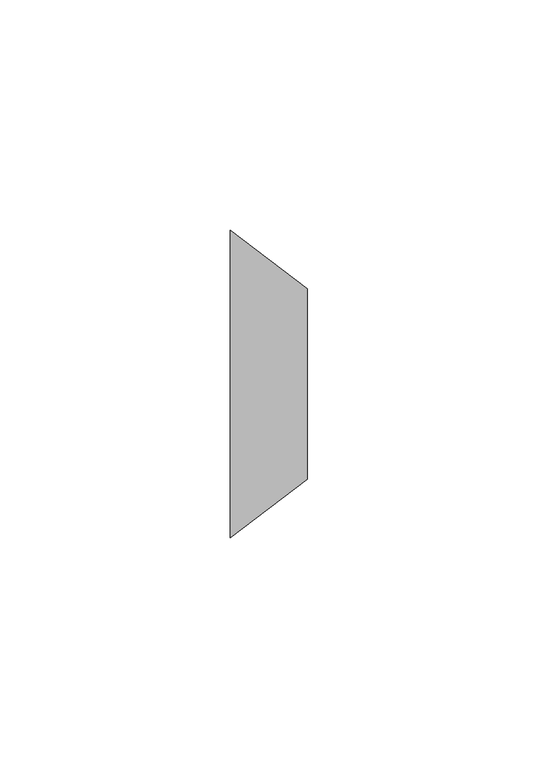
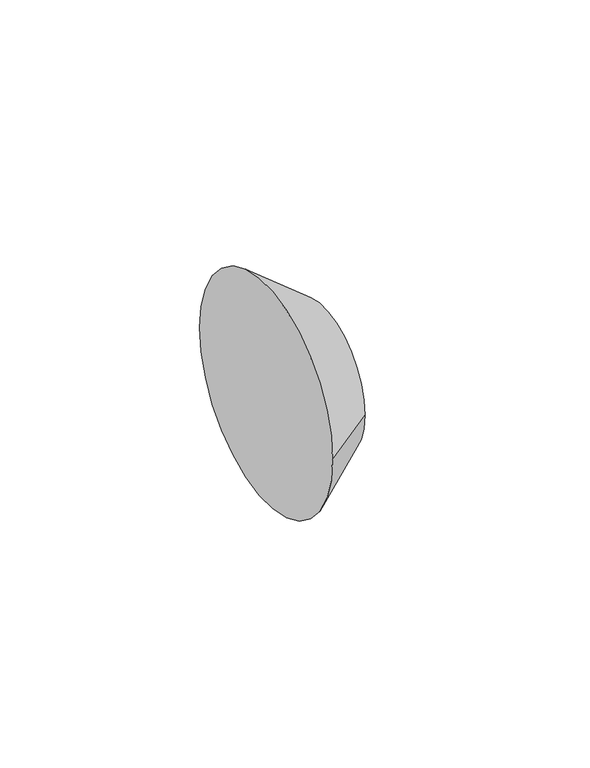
"""IFC4 building model written with IfcOpenShell, lengths in millimetres: pipe fitting geometry, M_Transición - Genérica : Estándar."""

from ifc_helpers import new_model, si_unit, frame, origin, place, context, project, spatial, polyline, circle_curve, source, transform, mapped, element, save
from ifc_brep_helpers import plane_surface, revolved_surface, advanced_brep


def pipe_fitting_8fa67e65(model_context):
    return source(origin(), model_context, "Body", "AdvancedBrep", [
        advanced_brep(
        [(16.66875, -20.6375, 0.0), (16.66875, 20.6375, 0.0), (0.0, -33.3375, 0.0), (0.0, 33.3375, 0.0)],
        [
            (0, 1, circle_curve(frame((16.66875, 0.0, 0.0), z_axis=(1.0, 0.0, 0.0), x_axis=(0.0, -1.0, 0.0)), 20.6375)),
            (1, 0, circle_curve(frame((16.66875, 0.0, 0.0), z_axis=(1.0, 0.0, 0.0), x_axis=(0.0, 1.0, 0.0)), 20.6375)),
            (2, 3, circle_curve(frame((0.0, 0.0, 0.0), z_axis=(-1.0, 0.0, 0.0), x_axis=(0.0, 1.0, 0.0)), 33.3375)),
            (3, 2, circle_curve(frame((0.0, 0.0, 0.0), z_axis=(-1.0, 0.0, 0.0), x_axis=(0.0, -1.0, 0.0)), 33.3375)),
            (3, 1),
            (0, 2),
        ],
        [
            plane_surface(frame((16.66875, 0.0, 0.0), z_axis=(1.0, 0.0, 0.0), x_axis=(0.0, 0.0, -1.0))),
            plane_surface(frame((0.0, 0.0, 0.0), z_axis=(-1.0, 0.0, 0.0), x_axis=(0.0, 0.0, -1.0))),
            revolved_surface(polyline([(16.66875, -20.637500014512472, 0.0), (0.0, -33.3375, 0.0)]), (43.7554688, 0.0, 0.0), (-1.0, 0.0, 0.0)),
            revolved_surface(polyline([(16.66875, 20.637500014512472, 0.0), (0.0, 33.3375, 0.0)]), (43.7554688, 0.0, 0.0), (-1.0, 0.0, 0.0)),
        ],
        [
            (0, [[1, 2]]),
            (1, [[3, 4]]),
            (2, [[-4, 5, -1, 6]]),
            (3, [[-3, -6, -2, -5]]),
        ],
    ),
    ])


if __name__ == "__main__":
    model = new_model("IFC4")
    model_context = context("Model", 3, world=origin())
    ifc_project = project(units=[si_unit("LENGTHUNIT", "METRE", prefix="MILLI")], contexts=[model_context])
    site = spatial("IfcSite", under=ifc_project)
    building = spatial("IfcBuilding", under=site)
    placement = place(None, origin())
    pipe_fitting_shape = pipe_fitting_8fa67e65(model_context)
    element("IfcPipeFitting", 1, ObjectType="M_Transición - Genérica : Estándar", at=placement, inside=building, context=model_context, shape_type="MappedRepresentation", body=[
        mapped(pipe_fitting_shape, transform((0.0, 0.0, 0.0), x_axis=(1.0, 0.0, 0.0), y_axis=(0.0, 1.0, 0.0), z_axis=(0.0, 0.0, 1.0))),
    ])
    save(model, "model.ifc")
